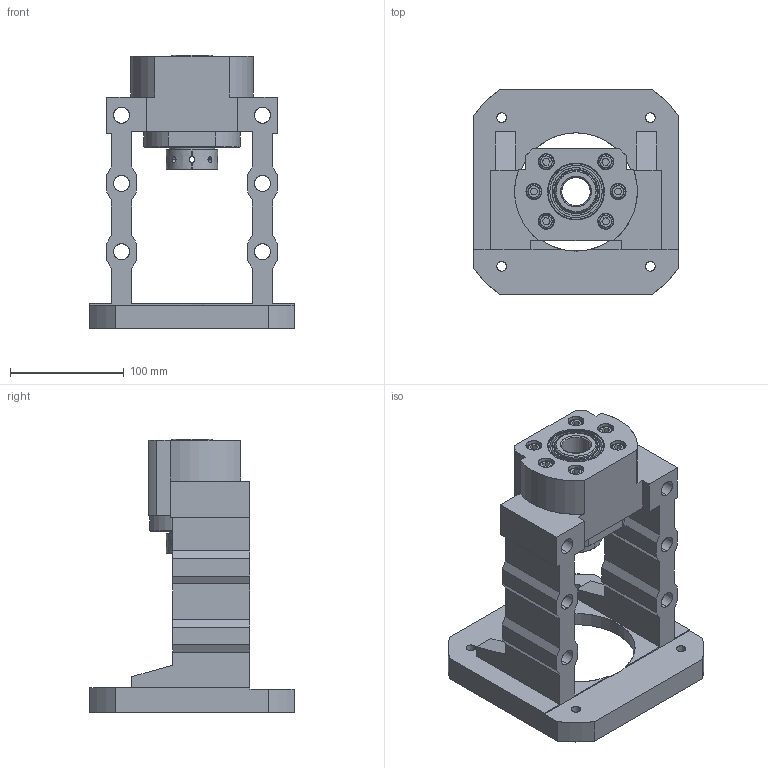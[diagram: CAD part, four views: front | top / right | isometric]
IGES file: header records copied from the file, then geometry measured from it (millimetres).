
Start section: SolidWorks IGES file using analytic representation for surfaces
Bounding box: 180 x 180 x 241 mm (x, y, z)
Surface area: 217818.3 mm2 (no closed solid volume)
Topology: 0 solids, 0 shells, 334 faces, 5942 edges, 5934 vertices
Faces by surface type: revolution 174, bspline 160
